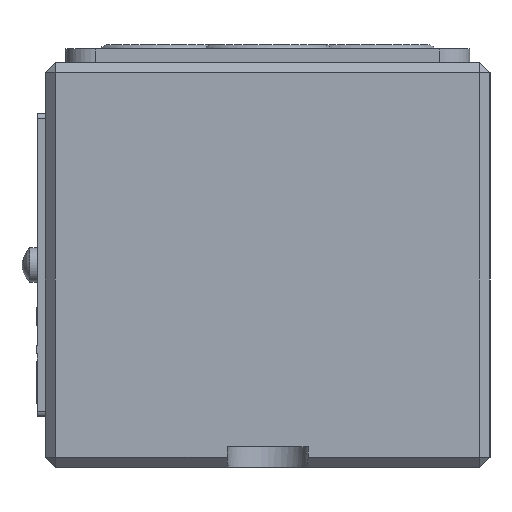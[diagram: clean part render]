
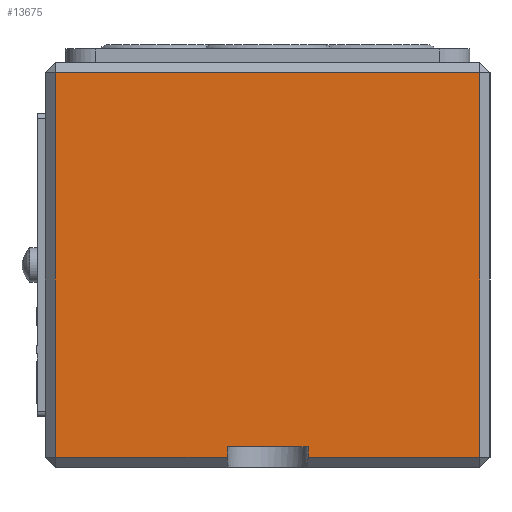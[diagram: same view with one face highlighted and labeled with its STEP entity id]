
A CAD part, left-side view. The second image highlights one B-rep face of the part: STEP entity #13675.
In plain terms, the highlighted planar face has unit normal (-1, 0, 0).
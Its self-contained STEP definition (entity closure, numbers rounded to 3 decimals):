
#9715=LINE('',#39875,#12459);
#9716=LINE('',#39878,#12460);
#9717=LINE('',#39880,#12461);
#9718=LINE('',#39882,#12462);
#9719=LINE('',#39884,#12463);
#9720=LINE('',#39886,#12464);
#9721=LINE('',#39888,#12465);
#9722=LINE('',#39890,#12466);
#12459=VECTOR('',#33200,1.);
#12460=VECTOR('',#33201,1.);
#12461=VECTOR('',#33202,1.);
#12462=VECTOR('',#33203,1.);
#12463=VECTOR('',#33204,1.);
#12464=VECTOR('',#33205,1.);
#12465=VECTOR('',#33206,1.);
#12466=VECTOR('',#33207,1.);
#13675=ADVANCED_FACE('',(#15629),#14638,.T.);
#14638=PLANE('',#28533);
#15629=FACE_OUTER_BOUND('',#16681,.T.);
#16681=EDGE_LOOP('',(#22386,#22387,#22388,#22389,#22390,#22391,#22392,#22393));
#22386=ORIENTED_EDGE('',*,*,#27400,.T.);
#22387=ORIENTED_EDGE('',*,*,#27401,.T.);
#22388=ORIENTED_EDGE('',*,*,#27402,.F.);
#22389=ORIENTED_EDGE('',*,*,#27403,.F.);
#22390=ORIENTED_EDGE('',*,*,#27404,.F.);
#22391=ORIENTED_EDGE('',*,*,#27405,.T.);
#22392=ORIENTED_EDGE('',*,*,#27406,.T.);
#22393=ORIENTED_EDGE('',*,*,#27407,.T.);
#24520=VERTEX_POINT('',#39876);
#24521=VERTEX_POINT('',#39877);
#24522=VERTEX_POINT('',#39879);
#24523=VERTEX_POINT('',#39881);
#24524=VERTEX_POINT('',#39883);
#24525=VERTEX_POINT('',#39885);
#24526=VERTEX_POINT('',#39887);
#24527=VERTEX_POINT('',#39889);
#27400=EDGE_CURVE('',#24520,#24521,#9715,.T.);
#27401=EDGE_CURVE('',#24521,#24522,#9716,.T.);
#27402=EDGE_CURVE('',#24523,#24522,#9717,.T.);
#27403=EDGE_CURVE('',#24524,#24523,#9718,.T.);
#27404=EDGE_CURVE('',#24525,#24524,#9719,.T.);
#27405=EDGE_CURVE('',#24525,#24526,#9720,.T.);
#27406=EDGE_CURVE('',#24526,#24527,#9721,.T.);
#27407=EDGE_CURVE('',#24527,#24520,#9722,.T.);
#28533=AXIS2_PLACEMENT_3D('',#39891,#33208,#33209);
#33200=DIRECTION('',(0.,0.,-1.));
#33201=DIRECTION('',(0.,-1.,0.));
#33202=DIRECTION('',(0.,0.,-1.));
#33203=DIRECTION('',(0.,1.,0.));
#33204=DIRECTION('',(0.,0.,1.));
#33205=DIRECTION('',(0.,-1.,0.));
#33206=DIRECTION('',(0.,0.,1.));
#33207=DIRECTION('',(0.,1.,0.));
#33208=DIRECTION('',(-1.,0.,0.));
#33209=DIRECTION('',(0.,0.,1.));
#39875=CARTESIAN_POINT('',(30.953,31.811,198.372));
#39876=CARTESIAN_POINT('',(30.953,31.811,197.372));
#39877=CARTESIAN_POINT('',(30.953,31.811,159.372));
#39878=CARTESIAN_POINT('',(30.953,-11.189,159.372));
#39879=CARTESIAN_POINT('',(30.953,14.811,159.372));
#39880=CARTESIAN_POINT('',(30.953,14.811,158.372));
#39881=CARTESIAN_POINT('',(30.953,14.811,160.372));
#39882=CARTESIAN_POINT('',(30.953,-11.189,160.372));
#39883=CARTESIAN_POINT('',(30.953,6.811,160.372));
#39884=CARTESIAN_POINT('',(30.953,6.811,158.372));
#39885=CARTESIAN_POINT('',(30.953,6.811,159.372));
#39886=CARTESIAN_POINT('',(30.953,-11.189,159.372));
#39887=CARTESIAN_POINT('',(30.953,-10.189,159.372));
#39888=CARTESIAN_POINT('',(30.953,-10.189,198.372));
#39889=CARTESIAN_POINT('',(30.953,-10.189,197.372));
#39890=CARTESIAN_POINT('',(30.953,32.811,197.372));
#39891=CARTESIAN_POINT('',(30.953,-11.189,198.372));
